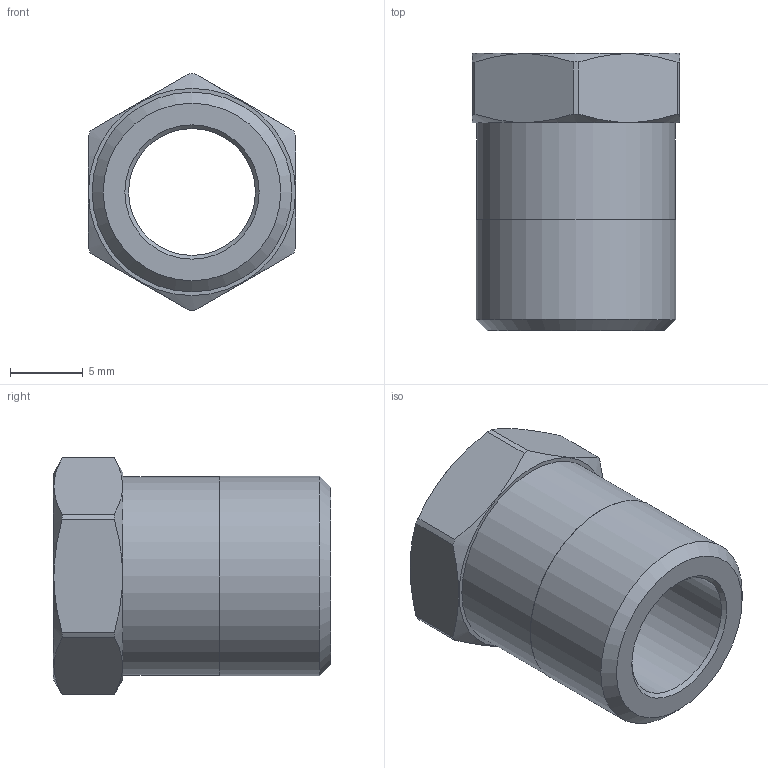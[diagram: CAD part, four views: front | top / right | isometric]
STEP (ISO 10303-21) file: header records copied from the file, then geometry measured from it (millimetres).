
FILE_DESCRIPTION(/* description */ (''),/* implementation_level */ '2;1');
FILE_NAME(/* name */ 'C:/Users/drich/Desktop/RB14-2 v1.step',/* time_stamp */ '2020-02-09T10:59:53-06:00',/* author */ (''),/* organization */ (''),/* preprocessor_version */ 'ST-DEVELOPER v18',/* originating_system */ 'Autodesk Translation Framework v8.12.0.6',/* authorisation */ '');
FILE_SCHEMA (('AUTOMOTIVE_DESIGN { 1 0 10303 214 3 1 1 }'));
Length unit declared in the file: inch
Products named in the file (1): RB14-2
Bounding box: 14.27 x 19.05 x 16.26 mm (x, y, z)
Volume: 1780.2 mm3; surface area: 1556.7 mm2
Topology: 1 solids, 1 shells, 26 faces, 68 edges, 47 vertices
Faces by surface type: plane 11, cylinder 10, cone 5
Full cylindrical faces by diameter (mm): 8.712 x1, 8.763 x1, 13.665 x1, 13.716 x1
Entity records: 861 total; most frequent: CARTESIAN_POINT 166, DIRECTION 145, ORIENTED_EDGE 136, EDGE_CURVE 68, AXIS2_PLACEMENT_3D 62, VERTEX_POINT 47, CIRCLE 35, EDGE_LOOP 31
